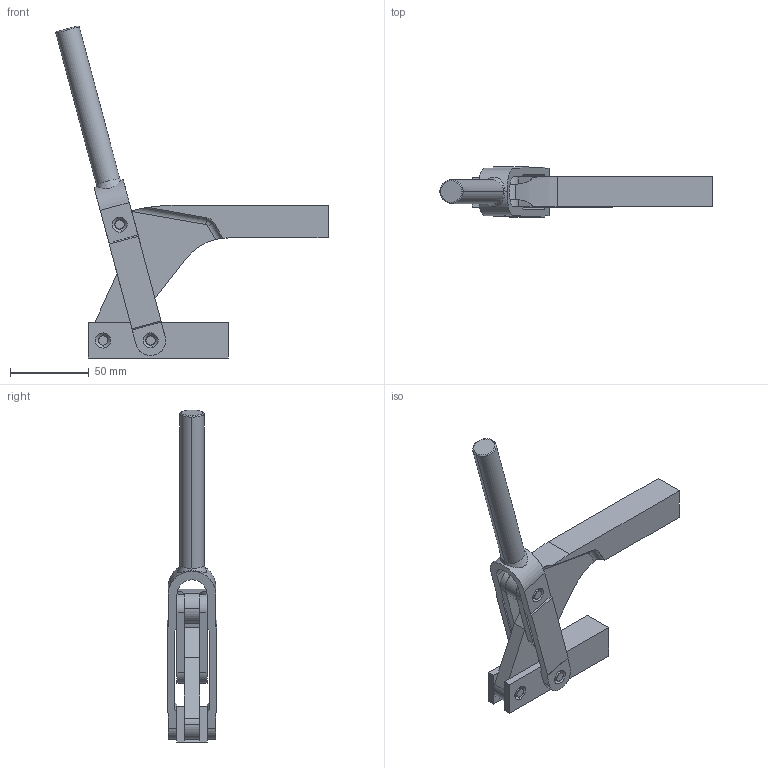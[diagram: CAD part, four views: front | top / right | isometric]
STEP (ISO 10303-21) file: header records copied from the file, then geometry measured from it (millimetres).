
FILE_DESCRIPTION( ( '' ), '1' );
FILE_NAME( 'C:\Documents and Settings\Richard Grenzke\My Documents\Wolverine Company Data\WOLVERINE CD 5_17_05\SOLIDS STEP\hold_down\cq1110.stp', ' ', ( '' ), ( '' ), 'ACIS Interop R16', 'Kubotek KeyCreator V5.5.1 (0454)', ' ' );
FILE_SCHEMA( ( 'CONFIG_CONTROL_DESIGN' ) );
Length unit declared in the file: inch
Products named in the file (10): 1; 2; 3; 4; 5; 6; 7; 8; 9; 10
Bounding box: 172.79 x 31.69 x 210.74 mm (x, y, z)
Volume: 145278.5 mm3; surface area: 50106.2 mm2
Topology: 9 solids, 9 shells, 152 faces, 414 edges, 280 vertices
Faces by surface type: plane 68, cylinder 62, cone 18, torus 2, bspline 2
Entity records: 5497 total; most frequent: CARTESIAN_POINT 992, DIRECTION 904, ORIENTED_EDGE 828, EDGE_CURVE 414, AXIS2_PLACEMENT_3D 340, VERTEX_POINT 280, LINE 224, VECTOR 224
